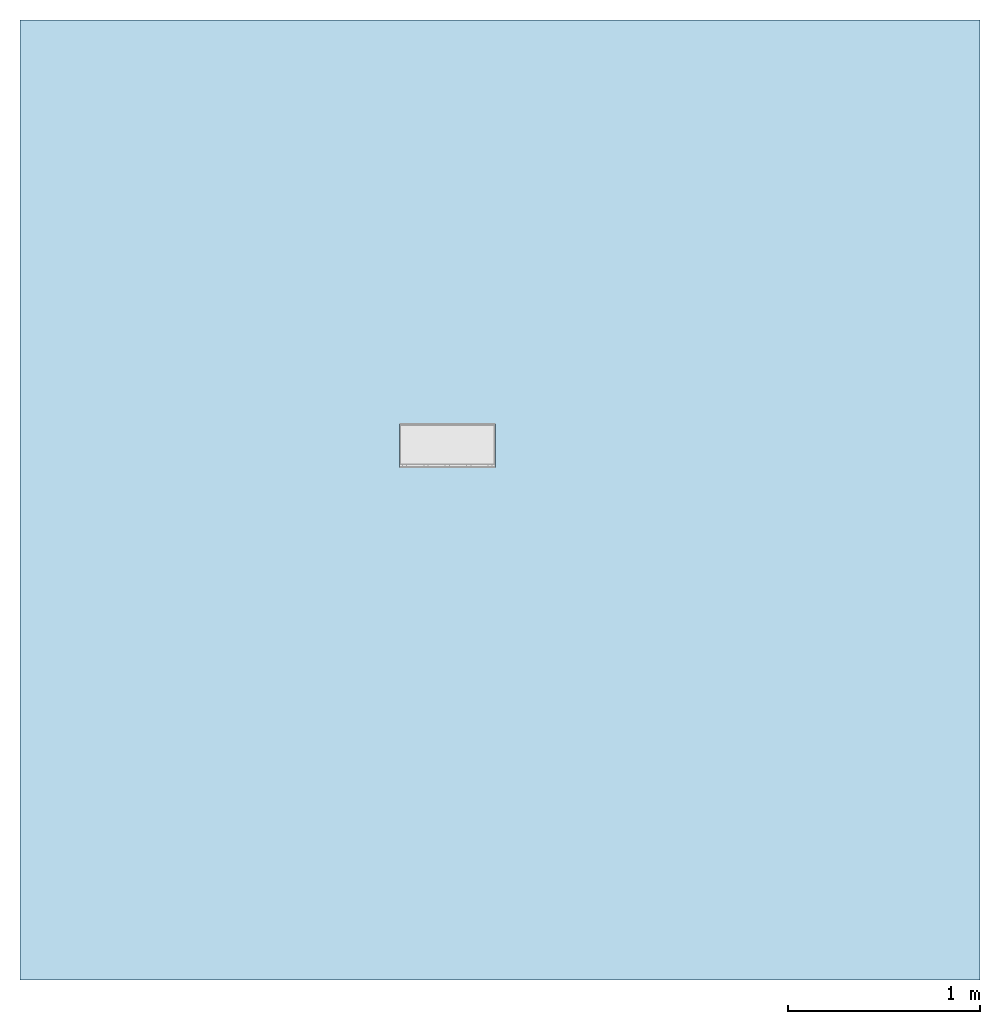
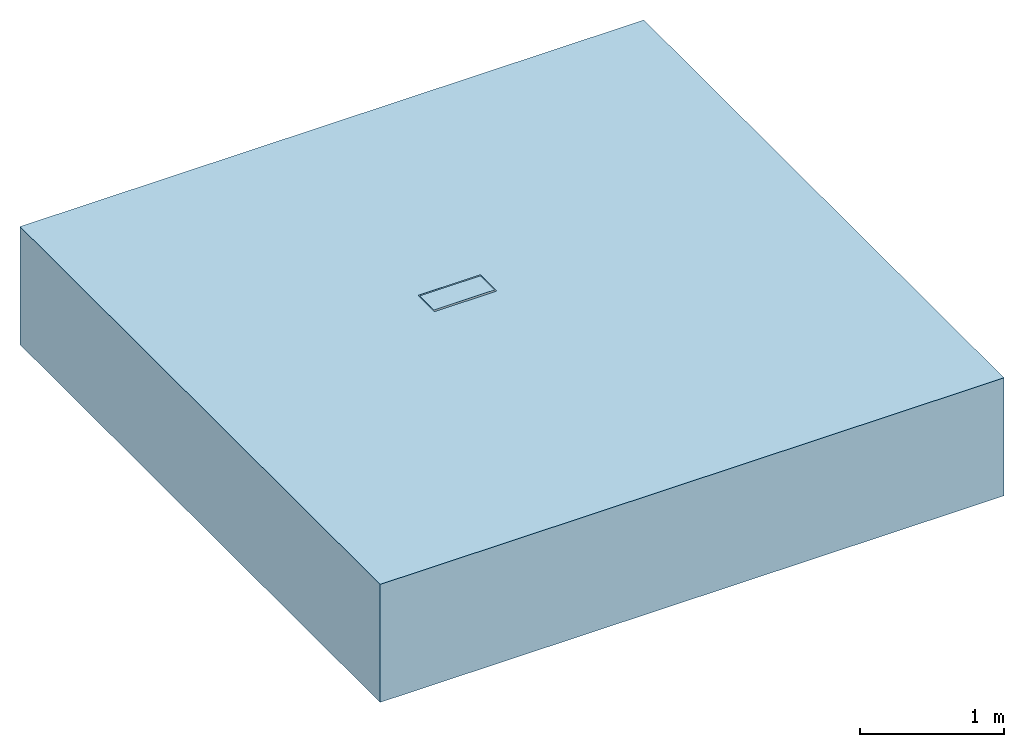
# One storey, incomplete: 1 slab, 2 openings.
"""IFC2X3 building model written with IfcOpenShell, lengths in millimetres."""

from ifc_helpers import new_model, entity, si_unit, converted_unit, direction, frame, frame_2d, origin, origin_2d_with_axis, place, context, subcontext, project, spatial, rectangle, extrude, faceted_brep, material, layer, layer_set, layer_usage, element, save


model = new_model("IFC2X3")

# Units and contexts
model_context = context("Model", 3, precision=1e-06, world=origin(), true_north=direction((2.0, 6.12303176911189e-17, 1.0)))
context_of_model = context(None, 3, precision=1e-06, world=origin(), true_north=direction((2.0, 6.12303176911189e-17, 1.0)))
body_context = subcontext(model_context, "Body", "Model", "MODEL_VIEW")
ifc_project = project(units=[si_unit("LENGTHUNIT", "METRE", prefix="MILLI"), si_unit("AREAUNIT", "SQUARE_METRE", prefix="MILLI"), si_unit("VOLUMEUNIT", "CUBIC_METRE", prefix="MILLI"), converted_unit("PLANEANGLEUNIT", "DEGREE", entity("IfcRatioMeasure", 0.0174532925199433), si_unit("PLANEANGLEUNIT", "RADIAN"), dimensions=[0, 0, 0, 0, 0, 0, 0]), si_unit("TIMEUNIT", "SECOND")], contexts=[model_context, context_of_model])

# Site, building, storey
site_placement = place(None, origin())
site = spatial("IfcSite", under=ifc_project, at=site_placement, Name="Default", CompositionType="ELEMENT")
building_placement = place(site_placement, origin())
building = spatial("IfcBuilding", under=site, at=building_placement, CompositionType="ELEMENT")
storey_placement = place(building_placement, origin())
storey = spatial("IfcBuildingStorey", under=building, at=storey_placement, Name="Level 1", CompositionType="ELEMENT", Elevation=0.0)

# Slab, openings
ifc_material = material(Name="Earth")
ifc_layer = layer(ifc_material, 1000.0)
ifc_layer_set = layer_set([ifc_layer], Name="Floor:Generic Floor - 1000mm")
ifc_layer_usage = layer_usage(ifc_layer_set, "AXIS3", "POSITIVE", 0.0)
slab_placement = place(storey_placement, origin())
slab = element("IfcSlab", 1, at=slab_placement, inside=storey, material=ifc_layer_usage, Name="Floor:Generic Floor - 1000mm", ObjectType="Floor:Generic Floor - 1000mm", PredefinedType="FLOOR", context=body_context, shape_type="SweptSolid", body=[
    extrude(rectangle(XDim=5000.0, YDim=5000.0, at=frame_2d((0.0, 0.0), x_axis=(0.0, -1.0))), frame((0.0, 0.0, 0.0), z_axis=(0.0, 0.0, -1.0), x_axis=(-1.0, 0.0, 0.0)), (0.0, 0.0, 1.0), 1000.0),
])
opening_1_placement = place(slab_placement, frame((-524.526979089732, 166.23832696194, -895.0)))
element("IfcOpeningElement", 2, at=opening_1_placement, cuts=slab, ObjectType="Recess", context=body_context, shape_type="SweptSolid", body=[
    extrude(rectangle(XDim=18.0000000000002, YDim=500.0, at=origin_2d_with_axis()), frame((225.473020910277, 179.48832696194, -6605.0), z_axis=(0.0, 0.0, 1.0), x_axis=(0.0, 1.0, 0.0)), (0.0, 0.0, 1.0), 105.000000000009),
])
opening_2_placement = place(slab_placement, frame((-524.526979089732, 166.23832696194, -895.0)))
element("IfcOpeningElement", 3, at=opening_2_placement, cuts=slab, ObjectType="Recess", context=body_context, shape_type="Brep", body=[
    faceted_brep([(6.0, 220.750000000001, 790.0), (494.0, 220.750000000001, 790.0), (494.0, 22.2500000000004, 790.0), (6.0, 22.2500000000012, 790.0), (0.0, 4.25000000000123, 790.0), (500.0, 4.25000000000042, 790.0), (500.0, 0.0, 790.0), (0.0, 0.0, 790.0), (0.0, 235.0, 790.0), (500.0, 235.0, 790.0), (500.0, 230.750000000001, 790.0), (0.0, 230.750000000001, 790.0), (0.0, 235.0, 0.0), (0.0, 0.0, 0.0), (0.0, 230.750000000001, 895.0), (0.0, 4.2500000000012, 895.0), (500.0, 0.0, 0.0), (500.0, 235.0, 0.0), (500.0, 4.25000000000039, 895.0), (500.0, 230.750000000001, 895.0), (494.0, 22.2500000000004, 895.0), (494.0, 220.750000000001, 895.0), (6.0, 220.750000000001, 895.0), (6.0, 22.2500000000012, 895.0)], [[[0, 1, 2]], [[2, 3, 0]], [[4, 5, 6]], [[6, 7, 4]], [[8, 9, 10]], [[10, 11, 8]], [[8, 11, 12]], [[13, 12, 11]], [[14, 4, 11]], [[7, 13, 4]], [[11, 4, 13]], [[14, 15, 4]], [[6, 5, 16]], [[17, 16, 5]], [[18, 10, 5]], [[9, 17, 10]], [[5, 10, 17]], [[18, 19, 10]], [[13, 16, 17]], [[17, 12, 13]], [[12, 17, 9]], [[9, 8, 12]], [[7, 6, 16]], [[16, 13, 7]], [[20, 21, 19]], [[22, 19, 21]], [[15, 20, 18]], [[19, 18, 20]], [[23, 14, 22]], [[19, 22, 14]], [[20, 15, 23]], [[14, 23, 15]], [[19, 11, 10]], [[11, 19, 14]], [[18, 5, 4]], [[4, 15, 18]], [[22, 0, 3]], [[3, 23, 22]], [[23, 3, 2]], [[2, 20, 23]], [[20, 2, 1]], [[1, 21, 20]], [[21, 1, 0]], [[0, 22, 21]]]),
])

save(model, "model.ifc")
